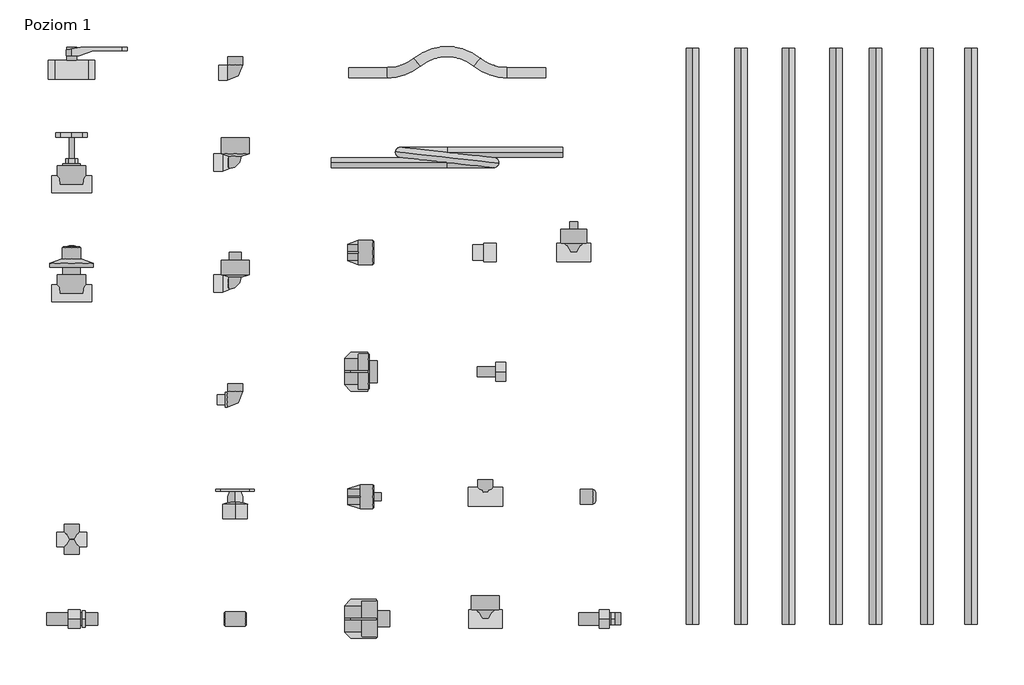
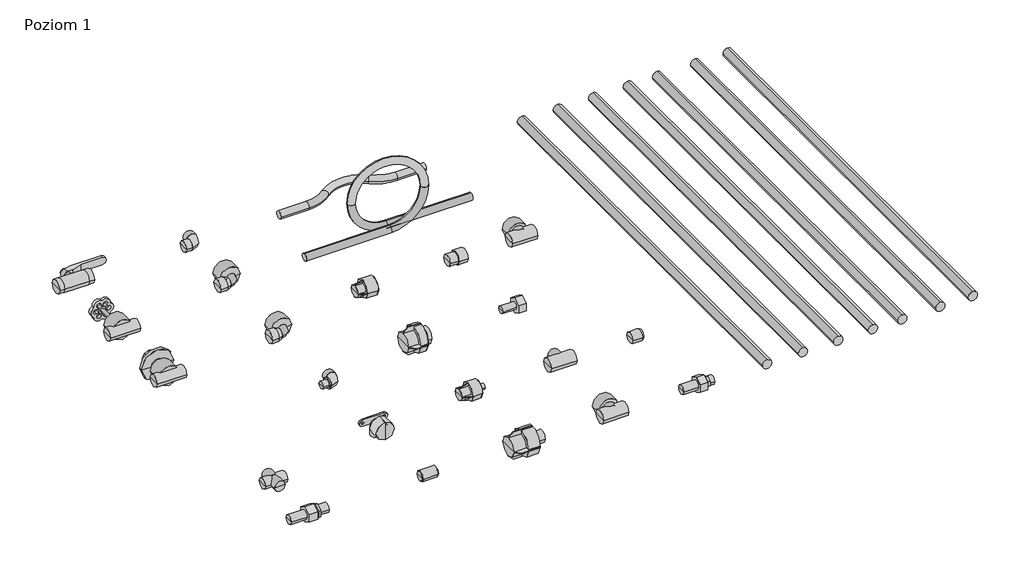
# One storey, incomplete: 21 pipe fittings, 7 pipe segments, 3 valves.
"""IFC4 building model written with IfcOpenShell, lengths in millimetres."""

from ifc_helpers import new_model, si_unit, point, frame, frame_2d, origin, place, context, project, spatial, circle_curve, trimmed, segment, composite_curve, outline, extrude, transform, mapped, element, save
from components import pipe_fitting_f1c90eea, pipe_fitting_9086a7c6, pipe_fitting_11c5de82, pipe_fitting_1866e0d2, pipe_fitting_2de91ca1, pipe_fitting_89126435, pipe_fitting_272f826c, pipe_fitting_9ada75cd, pipe_fitting_20d86fd1, pipe_fitting_fa644c43, pipe_fitting_0102d526, pipe_fitting_1dd2d78f, pipe_fitting_2e6c01af, pipe_fitting_c9998384, pipe_fitting_fa37c8a6, pipe_fitting_d33e2bb3, pipe_fitting_25df7227, pipe_fitting_663bc164, pipe_fitting_a18f5325, pipe_fitting_964f8dcf, pipe_fitting_1fe816a6, valve_cd258e7f, valve_e2585b80, valve_2c2c3ae2

model = new_model("IFC4")

# Units and contexts
model_context = context("Model", 3, world=origin())
ifc_project = project(units=[si_unit("LENGTHUNIT", "METRE", prefix="MILLI")], contexts=[model_context])

# Site, building, storey
site = spatial("IfcSite", under=ifc_project)
building = spatial("IfcBuilding", under=site)
storey = spatial("IfcBuildingStorey", under=building, Name="Poziom 1", Elevation=0.0)

# Pipe fittings
placement = place(None, origin())
pipe_fitting_shape = pipe_fitting_f1c90eea(model_context)
element("IfcPipeFitting", 1, ObjectType="KAN-therm PP czwórnik : KAN-therm PP czwórnik", at=placement, inside=storey, context=model_context, shape_type="MappedRepresentation", body=[
    mapped(pipe_fitting_shape, transform((-10196.8049542, -209.2223857, 0.0), x_axis=(1.0, 0.0, 0.0), y_axis=(0.0, 1.0, 0.0), z_axis=(0.0, 0.0, 1.0))),
])
pipe_fitting_2_shape = pipe_fitting_9086a7c6(model_context)
element("IfcPipeFitting", 2, ObjectType="KAN-therm PP holender : KAN-therm PP holender", at=placement, inside=storey, context=model_context, shape_type="MappedRepresentation", body=[
    mapped(pipe_fitting_2_shape, transform((-10222.670019, -336.1963406, 0.0), x_axis=(1.0, 0.0, 0.0), y_axis=(0.0, 1.0, 0.0), z_axis=(0.0, 0.0, 1.0))),
])
pipe_fitting_3_shape = pipe_fitting_11c5de82(model_context)
element("IfcPipeFitting", 3, ObjectType="KAN-therm PP kolano 45,90 : KAN-therm PP kolano 45,90", at=placement, inside=storey, context=model_context, shape_type="MappedRepresentation", body=[
    mapped(pipe_fitting_3_shape, transform((-9935.8029358, 536.1617567, 0.0), x_axis=(1.0, 0.0, 0.0), y_axis=(0.0, 1.0, 0.0), z_axis=(0.0, 0.0, 1.0))),
])
pipe_fitting_4_shape = pipe_fitting_1866e0d2(model_context)
element("IfcPipeFitting", 4, ObjectType="KAN-therm PP kolano nyplowe 45,90 : KAN-therm PP kolano nyplowe 45,90", at=placement, inside=storey, context=model_context, shape_type="MappedRepresentation", body=[
    mapped(pipe_fitting_4_shape, transform((-9935.8029358, 14.1577201, 0.0), x_axis=(1.0, 0.0, 0.0), y_axis=(0.0, 1.0, 0.0), z_axis=(0.0, 0.0, 1.0))),
])
pipe_fitting_5_shape = pipe_fitting_2de91ca1(model_context)
element("IfcPipeFitting", 5, ObjectType="KAN-therm PP kompensacja pętlicowa : KAN-therm PP kompensacja pętlicowa", at=placement, inside=storey, context=model_context, shape_type="MappedRepresentation", body=[
    mapped(pipe_fitting_5_shape, transform((-9597.2057229, 390.7282151, 0.0), x_axis=(1.0, 0.0, 0.0), y_axis=(0.0, 1.0, 0.0), z_axis=(0.0, 0.0, 1.0))),
])
pipe_fitting_6_shape = pipe_fitting_89126435(model_context)
element("IfcPipeFitting", 6, ObjectType="KAN-therm PP mijanka : KAN-therm PP mijanka", at=placement, inside=storey, context=model_context, shape_type="MappedRepresentation", body=[
    mapped(pipe_fitting_6_shape, transform((-9597.2057229, 536.1617567, 0.0), x_axis=(1.0, 0.0, 0.0), y_axis=(0.0, 1.0, 0.0), z_axis=(0.0, 0.0, 1.0))),
])
pipe_fitting_7_shape = pipe_fitting_272f826c(model_context)
element("IfcPipeFitting", 7, ObjectType="KAN-therm PP mufa gz z sześciokątem : KAN-therm PP mufa gz z sześciokątem", at=placement, inside=storey, context=model_context, shape_type="MappedRepresentation", body=[
    mapped(pipe_fitting_7_shape, transform((-9742.990634, -336.1963406, 0.0), x_axis=(1.0, 0.0, 0.0), y_axis=(0.0, 1.0, 0.0), z_axis=(0.0, 0.0, 1.0))),
])
pipe_fitting_8_shape = pipe_fitting_9ada75cd(model_context)
element("IfcPipeFitting", 8, ObjectType="KAN-therm PP mufa gz : KAN-therm PP mufa gz", at=placement, inside=storey, context=model_context, shape_type="MappedRepresentation", body=[
    mapped(pipe_fitting_8_shape, transform((-9742.990634, -141.0326692, 0.0), x_axis=(1.0, 0.0, 0.0), y_axis=(0.0, 1.0, 0.0), z_axis=(0.0, 0.0, 1.0))),
])
pipe_fitting_9_shape = pipe_fitting_20d86fd1(model_context)
element("IfcPipeFitting", 9, ObjectType="KAN-therm PP mufa redukcyjna nyplowa : KAN-therm PP mufa redukcyjna nyplowa", at=placement, inside=storey, context=model_context, shape_type="MappedRepresentation", body=[
    mapped(pipe_fitting_9_shape, transform((-9537.4214845, 249.2946735, 0.0), x_axis=(1.0, 0.0, 0.0), y_axis=(0.0, 1.0, 0.0), z_axis=(0.0, 0.0, 1.0))),
])
pipe_fitting_10_shape = pipe_fitting_fa644c43(model_context)
element("IfcPipeFitting", 10, ObjectType="KAN-therm PP mufa : KAN-therm PP mufa", at=placement, inside=storey, context=model_context, shape_type="MappedRepresentation", body=[
    mapped(pipe_fitting_10_shape, transform((-9935.8029358, -336.1963406, 0.0), x_axis=(1.0, 0.0, 0.0), y_axis=(0.0, 1.0, 0.0), z_axis=(0.0, 0.0, 1.0))),
])
pipe_fitting_11_shape = pipe_fitting_0102d526(model_context)
element("IfcPipeFitting", 11, ObjectType="KAN-therm PP trojnik : KAN-therm PP trojnik", at=placement, inside=storey, context=model_context, shape_type="MappedRepresentation", body=[
    mapped(pipe_fitting_11_shape, transform((-9536.070115, -141.0326692, 0.0), x_axis=(1.0, 0.0, 0.0), y_axis=(0.0, 1.0, 0.0), z_axis=(0.0, 0.0, 1.0))),
])
pipe_fitting_12_shape = pipe_fitting_1dd2d78f(model_context)
element("IfcPipeFitting", 12, ObjectType="KAN-therm PP zaślepka : KAN-therm PP zaślepka", at=placement, inside=storey, context=model_context, shape_type="MappedRepresentation", body=[
    mapped(pipe_fitting_12_shape, transform((-9372.2742475, -141.0326692, 0.0), x_axis=(1.0, 0.0, 0.0), y_axis=(0.0, 1.0, 0.0), z_axis=(0.0, 0.0, 1.0))),
])
pipe_fitting_13_shape = pipe_fitting_2e6c01af(model_context)
element("IfcPipeFitting", 13, ObjectType="KAN-therm PP mufa gw z sześciokątem : 1\"", at=placement, inside=storey, context=model_context, shape_type="MappedRepresentation", body=[
    mapped(pipe_fitting_13_shape, transform((-9742.990634, 58.8337412, 0.0), x_axis=(1.0, 0.0, 0.0), y_axis=(0.0, 1.0, 0.0), z_axis=(0.0, 0.0, 1.0))),
])
pipe_fitting_14_shape = pipe_fitting_c9998384(model_context)
element("IfcPipeFitting", 14, ObjectType="KAN-therm PP kolano z wieszakiem : 1/2\"", at=placement, inside=storey, context=model_context, shape_type="MappedRepresentation", body=[
    mapped(pipe_fitting_14_shape, transform((-9935.8029358, -141.0326692, 0.0), x_axis=(1.0, 0.0, 0.0), y_axis=(0.0, 1.0, 0.0), z_axis=(0.0, 0.0, 1.0))),
])
pipe_fitting_15_shape = pipe_fitting_fa37c8a6(model_context)
element("IfcPipeFitting", 15, ObjectType="KAN-therm PP trojnik gz : 1/2\"", at=placement, inside=storey, context=model_context, shape_type="MappedRepresentation", body=[
    mapped(pipe_fitting_15_shape, transform((-9394.9879429, 249.2946735, 0.0), x_axis=(1.0, 0.0, 0.0), y_axis=(0.0, 1.0, 0.0), z_axis=(0.0, 0.0, 1.0))),
])
pipe_fitting_16_shape = pipe_fitting_d33e2bb3(model_context)
element("IfcPipeFitting", 16, ObjectType="KAN-therm PP kolano gw : 3/4\"", at=placement, inside=storey, context=model_context, shape_type="MappedRepresentation", body=[
    mapped(pipe_fitting_16_shape, transform((-9935.8029358, 392.7282151, 0.0), x_axis=(1.0, 0.0, 0.0), y_axis=(0.0, 1.0, 0.0), z_axis=(0.0, 0.0, 1.0))),
])
pipe_fitting_17_shape = pipe_fitting_25df7227(model_context)
element("IfcPipeFitting", 17, ObjectType="KAN-therm PP kolano gz : 3/4\"", at=placement, inside=storey, context=model_context, shape_type="MappedRepresentation", body=[
    mapped(pipe_fitting_17_shape, transform((-9935.8029358, 199.9159133, 0.0), x_axis=(1.0, 0.0, 0.0), y_axis=(0.0, 1.0, 0.0), z_axis=(0.0, 0.0, 1.0))),
])
pipe_fitting_18_shape = pipe_fitting_663bc164(model_context)
element("IfcPipeFitting", 18, ObjectType="KAN-therm PP półśrubunek : 3/4\"", at=placement, inside=storey, context=model_context, shape_type="MappedRepresentation", body=[
    mapped(pipe_fitting_18_shape, transform((-9536.070115, 58.8337412, 0.0), x_axis=(1.0, 0.0, 0.0), y_axis=(0.0, 1.0, 0.0), z_axis=(0.0, 0.0, 1.0))),
])
pipe_fitting_19_shape = pipe_fitting_a18f5325(model_context)
element("IfcPipeFitting", 19, ObjectType="KAN-therm PP śrubunek : 3/4\"", at=placement, inside=storey, context=model_context, shape_type="MappedRepresentation", body=[
    mapped(pipe_fitting_19_shape, transform((-9372.2742475, -336.1963406, 0.0), x_axis=(1.0, 0.0, 0.0), y_axis=(0.0, 1.0, 0.0), z_axis=(0.0, 0.0, 1.0))),
])
pipe_fitting_20_shape = pipe_fitting_964f8dcf(model_context)
element("IfcPipeFitting", 20, ObjectType="KAN-therm PP trojnik gw : 3/4\"", at=placement, inside=storey, context=model_context, shape_type="MappedRepresentation", body=[
    mapped(pipe_fitting_20_shape, transform((-9536.070115, -336.1963406, 0.0), x_axis=(1.0, 0.0, 0.0), y_axis=(0.0, 1.0, 0.0), z_axis=(0.0, 0.0, 1.0))),
])
pipe_fitting_21_shape = pipe_fitting_1fe816a6(model_context)
element("IfcPipeFitting", 21, ObjectType="KAN-therm PP mufa gw : 3/4\"", at=placement, inside=storey, context=model_context, shape_type="MappedRepresentation", body=[
    mapped(pipe_fitting_21_shape, transform((-9742.990634, 249.2946735, 0.0), x_axis=(1.0, 0.0, 0.0), y_axis=(0.0, 1.0, 0.0), z_axis=(0.0, 0.0, 1.0))),
])

# Pipe segments
element("IfcPipeSegment", 22, ObjectType="KAN-therm PP rura PN10 (S5/SDR11)", at=placement, inside=storey, context=model_context, shape_type="SweptSolid", body=[
    extrude(outline(composite_curve([segment(trimmed(circle_curve(frame_2d((0.0, -9205.4272758)), 10.0), [point((0.0, -9215.4272758))], [point((-10.0, -9205.4272758))], False, "CARTESIAN"), True, "CONTINUOUS"), segment(trimmed(circle_curve(frame_2d((0.0, -9205.4272758)), 10.0), [point((-10.0, -9205.4272758))], [point((0.0, -9195.4272758))], False, "CARTESIAN"), True, "CONTINUOUS"), segment(trimmed(circle_curve(frame_2d((0.0, -9205.4272758)), 10.0), [point((0.0, -9195.4272758))], [point((10.0, -9205.4272758))], False, "CARTESIAN"), True, "CONTINUOUS"), segment(trimmed(circle_curve(frame_2d((0.0, -9205.4272758)), 10.0), [point((10.0, -9205.4272758))], [point((0.0, -9215.4272758))], False, "CARTESIAN"), True, "CONTINUOUS")], self_intersect=False)), frame((0.0, -344.4799735, 0.0), z_axis=(0.0, 1.0, 0.0), x_axis=(0.0, 0.0, 1.0)), (0.0, 0.0, 1.0), 920.0),
])
element("IfcPipeSegment", 23, ObjectType="KAN-therm PP rura PN16 (S3,2/SDR7,4)", at=placement, inside=storey, context=model_context, shape_type="SweptSolid", body=[
    extrude(outline(composite_curve([segment(trimmed(circle_curve(frame_2d((0.0, -9127.9663709)), 10.0), [point((0.0, -9137.9663709))], [point((-10.0, -9127.9663709))], False, "CARTESIAN"), True, "CONTINUOUS"), segment(trimmed(circle_curve(frame_2d((0.0, -9127.9663709)), 10.0), [point((-10.0, -9127.9663709))], [point((0.0, -9117.9663709))], False, "CARTESIAN"), True, "CONTINUOUS"), segment(trimmed(circle_curve(frame_2d((0.0, -9127.9663709)), 10.0), [point((0.0, -9117.9663709))], [point((10.0, -9127.9663709))], False, "CARTESIAN"), True, "CONTINUOUS"), segment(trimmed(circle_curve(frame_2d((0.0, -9127.9663709)), 10.0), [point((10.0, -9127.9663709))], [point((0.0, -9137.9663709))], False, "CARTESIAN"), True, "CONTINUOUS")], self_intersect=False)), frame((0.0, -344.4799735, 0.0), z_axis=(0.0, 1.0, 0.0), x_axis=(0.0, 0.0, 1.0)), (0.0, 0.0, 1.0), 920.0),
])
element("IfcPipeSegment", 24, ObjectType="KAN-therm PP rura PN16 (S3,2/SDR7,4) Glass", at=placement, inside=storey, context=model_context, shape_type="SweptSolid", body=[
    extrude(outline(composite_curve([segment(trimmed(circle_curve(frame_2d((0.0, -9051.56022)), 10.0), [point((0.0, -9061.56022))], [point((-10.0, -9051.56022))], False, "CARTESIAN"), True, "CONTINUOUS"), segment(trimmed(circle_curve(frame_2d((0.0, -9051.56022)), 10.0), [point((-10.0, -9051.56022))], [point((0.0, -9041.56022))], False, "CARTESIAN"), True, "CONTINUOUS"), segment(trimmed(circle_curve(frame_2d((0.0, -9051.56022)), 10.0), [point((0.0, -9041.56022))], [point((10.0, -9051.56022))], False, "CARTESIAN"), True, "CONTINUOUS"), segment(trimmed(circle_curve(frame_2d((0.0, -9051.56022)), 10.0), [point((10.0, -9051.56022))], [point((0.0, -9061.56022))], False, "CARTESIAN"), True, "CONTINUOUS")], self_intersect=False)), frame((0.0, -344.4799735, 0.0), z_axis=(0.0, 1.0, 0.0), x_axis=(0.0, 0.0, 1.0)), (0.0, 0.0, 1.0), 920.0),
])
element("IfcPipeSegment", 25, ObjectType="KAN-therm PP rura PN16 (S3,2/SDR7,4) Stabi AI", at=placement, inside=storey, context=model_context, shape_type="SweptSolid", body=[
    extrude(outline(composite_curve([segment(trimmed(circle_curve(frame_2d((0.0, -8976.3163949)), 10.0), [point((0.0, -8986.3163949))], [point((-10.0, -8976.3163949))], False, "CARTESIAN"), True, "CONTINUOUS"), segment(trimmed(circle_curve(frame_2d((0.0, -8976.3163949)), 10.0), [point((-10.0, -8976.3163949))], [point((0.0, -8966.3163949))], False, "CARTESIAN"), True, "CONTINUOUS"), segment(trimmed(circle_curve(frame_2d((0.0, -8976.3163949)), 10.0), [point((0.0, -8966.3163949))], [point((10.0, -8976.3163949))], False, "CARTESIAN"), True, "CONTINUOUS"), segment(trimmed(circle_curve(frame_2d((0.0, -8976.3163949)), 10.0), [point((10.0, -8976.3163949))], [point((0.0, -8986.3163949))], False, "CARTESIAN"), True, "CONTINUOUS")], self_intersect=False)), frame((0.0, -344.4799735, 0.0), z_axis=(0.0, 1.0, 0.0), x_axis=(0.0, 0.0, 1.0)), (0.0, 0.0, 1.0), 920.0),
])
element("IfcPipeSegment", 26, ObjectType="KAN-therm PP rura PN20 (S2,5/SDR6)", at=placement, inside=storey, context=model_context, shape_type="SweptSolid", body=[
    extrude(outline(composite_curve([segment(trimmed(circle_curve(frame_2d((0.0, -8912.8294175)), 10.0), [point((0.0, -8922.8294175))], [point((-10.0, -8912.8294175))], False, "CARTESIAN"), True, "CONTINUOUS"), segment(trimmed(circle_curve(frame_2d((0.0, -8912.8294175)), 10.0), [point((-10.0, -8912.8294175))], [point((0.0, -8902.8294175))], False, "CARTESIAN"), True, "CONTINUOUS"), segment(trimmed(circle_curve(frame_2d((0.0, -8912.8294175)), 10.0), [point((0.0, -8902.8294175))], [point((10.0, -8912.8294175))], False, "CARTESIAN"), True, "CONTINUOUS"), segment(trimmed(circle_curve(frame_2d((0.0, -8912.8294175)), 10.0), [point((10.0, -8912.8294175))], [point((0.0, -8922.8294175))], False, "CARTESIAN"), True, "CONTINUOUS")], self_intersect=False)), frame((0.0, -344.4799735, 0.0), z_axis=(0.0, 1.0, 0.0), x_axis=(0.0, 0.0, 1.0)), (0.0, 0.0, 1.0), 920.0),
])
element("IfcPipeSegment", 27, ObjectType="KAN-therm PP rura PN20 (S2,5/SDR6) Glass", at=placement, inside=storey, context=model_context, shape_type="SweptSolid", body=[
    extrude(outline(composite_curve([segment(trimmed(circle_curve(frame_2d((0.0, -8830.5314837)), 10.0), [point((0.0, -8840.5314837))], [point((-10.0, -8830.5314837))], False, "CARTESIAN"), True, "CONTINUOUS"), segment(trimmed(circle_curve(frame_2d((0.0, -8830.5314837)), 10.0), [point((-10.0, -8830.5314837))], [point((0.0, -8820.5314837))], False, "CARTESIAN"), True, "CONTINUOUS"), segment(trimmed(circle_curve(frame_2d((0.0, -8830.5314837)), 10.0), [point((0.0, -8820.5314837))], [point((10.0, -8830.5314837))], False, "CARTESIAN"), True, "CONTINUOUS"), segment(trimmed(circle_curve(frame_2d((0.0, -8830.5314837)), 10.0), [point((10.0, -8830.5314837))], [point((0.0, -8840.5314837))], False, "CARTESIAN"), True, "CONTINUOUS")], self_intersect=False)), frame((0.0, -344.4799735, 0.0), z_axis=(0.0, 1.0, 0.0), x_axis=(0.0, 0.0, 1.0)), (0.0, 0.0, 1.0), 920.0),
])
element("IfcPipeSegment", 28, ObjectType="KAN-therm PP rura PN20 (S2,5/SDR6) Stabi AI", at=placement, inside=storey, context=model_context, shape_type="SweptSolid", body=[
    extrude(outline(composite_curve([segment(trimmed(circle_curve(frame_2d((0.0, -8759.9903977)), 10.0), [point((0.0, -8769.9903977))], [point((-10.0, -8759.9903977))], False, "CARTESIAN"), True, "CONTINUOUS"), segment(trimmed(circle_curve(frame_2d((0.0, -8759.9903977)), 10.0), [point((-10.0, -8759.9903977))], [point((0.0, -8749.9903977))], False, "CARTESIAN"), True, "CONTINUOUS"), segment(trimmed(circle_curve(frame_2d((0.0, -8759.9903977)), 10.0), [point((0.0, -8749.9903977))], [point((10.0, -8759.9903977))], False, "CARTESIAN"), True, "CONTINUOUS"), segment(trimmed(circle_curve(frame_2d((0.0, -8759.9903977)), 10.0), [point((10.0, -8759.9903977))], [point((0.0, -8769.9903977))], False, "CARTESIAN"), True, "CONTINUOUS")], self_intersect=False)), frame((0.0, -344.4799735, 0.0), z_axis=(0.0, 1.0, 0.0), x_axis=(0.0, 0.0, 1.0)), (0.0, 0.0, 1.0), 920.0),
])

# Valves
valve_shape = valve_cd258e7f(model_context)
element("IfcValve", 29, ObjectType="KAN-therm PP zawór odcinający grzybkowy : KAN-therm PP zawór odcinający grzybkowy", at=placement, inside=storey, context=model_context, shape_type="MappedRepresentation", body=[
    mapped(valve_shape, transform((-10197.1938858, 358.0526153, 0.0), x_axis=(1.0, 0.0, 0.0), y_axis=(0.0, 1.0, 0.0), z_axis=(0.0, 0.0, 1.0))),
])
valve_2_shape = valve_e2585b80(model_context)
element("IfcValve", 30, ObjectType="KAN-therm PP zawór kulowy : KAN-therm PP zawór kulowy", at=placement, inside=storey, context=model_context, shape_type="MappedRepresentation", body=[
    mapped(valve_2_shape, transform((-10197.1938858, 541.1838531, 0.0), x_axis=(1.0, 0.0, 0.0), y_axis=(0.0, 1.0, 0.0), z_axis=(0.0, 0.0, 1.0))),
])
valve_3_shape = valve_2c2c3ae2(model_context)
element("IfcValve", 31, ObjectType="KAN-therm PP zawór odcinający grzybkowy podtynkowy z maskownicą : KAN-therm PP zawór odcinający grzybkowy podtynkowy z maskownicą", at=placement, inside=storey, context=model_context, shape_type="MappedRepresentation", body=[
    mapped(valve_3_shape, transform((-10197.1938858, 183.8112433, 0.0), x_axis=(1.0, 0.0, 0.0), y_axis=(0.0, 1.0, 0.0), z_axis=(0.0, 0.0, 1.0))),
])

save(model, "model.ifc")
